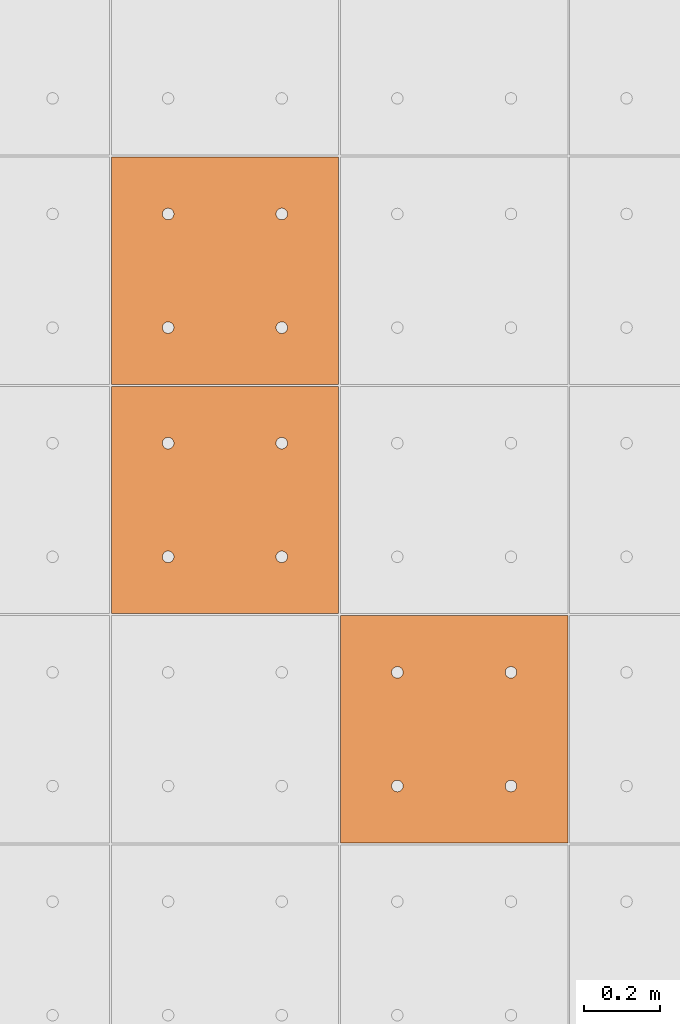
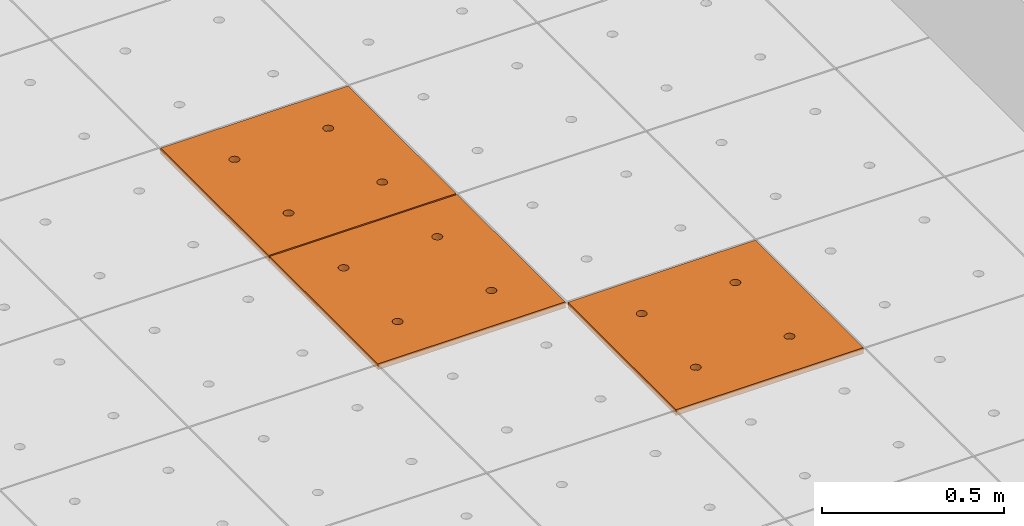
# One storey, part 274 of 338: 3 proxies, 1 element without a shape of its own.
"""IFC2X3 building model written with IfcOpenShell, lengths in millimetres."""

from ifc_helpers import new_model, entity, si_unit, converted_unit, derived_unit, money_unit, direction, frame, origin_with_axes, place, context, subcontext, project, spatial, faceted_brep, source, transform, mapped, material, type_object, type_shapes, element, aggregate, save


model = new_model("IFC2X3")

# Units and contexts
model_context = context("Model", 3, precision=0.01, world=origin_with_axes(), true_north=direction((0.0, 1.0)))
plan_context = context("Plan", 3, precision=0.01, world=origin_with_axes(), true_north=direction((0.0, 1.0)))
body_context = subcontext(model_context, "Body", "Model", "MODEL_VIEW")
ifc_project = project(units=[si_unit("LENGTHUNIT", "METRE", prefix="MILLI"), si_unit("AREAUNIT", "SQUARE_METRE"), si_unit("VOLUMEUNIT", "CUBIC_METRE"), converted_unit("PLANEANGLEUNIT", "DEGREE", entity("IfcPlaneAngleMeasure", 0.0174532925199), si_unit("PLANEANGLEUNIT", "RADIAN"), dimensions=[0, 0, 0, 0, 0, 0, 0]), money_unit("EUR"), converted_unit("TIMEUNIT", "Year", entity("IfcTimeMeasure", 31556926.0), si_unit("TIMEUNIT", "SECOND"), dimensions=[0, 0, 1, 0, 0, 0, 0]), si_unit("MASSUNIT", "GRAM", prefix="KILO"), si_unit("THERMODYNAMICTEMPERATUREUNIT", "DEGREE_CELSIUS"), si_unit("LUMINOUSINTENSITYUNIT", "LUMEN"), si_unit("ENERGYUNIT", "JOULE", prefix="MEGA"), derived_unit("THERMALCONDUCTANCEUNIT", [(si_unit("POWERUNIT", "WATT"), 1), (si_unit("LENGTHUNIT", "METRE"), -1), (si_unit("THERMODYNAMICTEMPERATUREUNIT", "KELVIN"), -1)]), derived_unit("SPECIFICHEATCAPACITYUNIT", [(si_unit("ENERGYUNIT", "JOULE"), 1), (si_unit("MASSUNIT", "GRAM", prefix="KILO"), -1), (si_unit("THERMODYNAMICTEMPERATUREUNIT", "KELVIN"), -1)]), derived_unit("MASSDENSITYUNIT", [(si_unit("MASSUNIT", "GRAM", prefix="KILO"), 1), (si_unit("VOLUMEUNIT", "CUBIC_METRE"), -1)])], contexts=[model_context, plan_context])

# Site, building, storey
site_placement = place(None, origin_with_axes())
site = spatial("IfcSite", under=ifc_project, at=site_placement, Name="Fortuinstraat Woensdrecht", CompositionType="ELEMENT")
building_placement = place(site_placement, origin_with_axes())
building = spatial("IfcBuilding", under=site, at=building_placement, Name="IKC Fortuna", CompositionType="ELEMENT")
storey_placement = place(building_placement, origin_with_axes())
storey = spatial("IfcBuildingStorey", under=building, at=storey_placement, Name="00 begane grond", CompositionType="ELEMENT", Elevation=0.0)

# Covering, proxies
covering_type = type_object("IfcCoveringType", Name="Curtain Wall Type", PredefinedType="CEILING")
covering_placement = place(storey_placement, frame((17451.9845996, 24118.5314449, 3210.0), z_axis=(0.0, 0.0, 1.0), x_axis=(1.0, 0.0, 0.0)))
covering = element("IfcCovering", 1, at=covering_placement, inside=storey, type_object=covering_type, Name="45_Plafondafwerking_P01", PredefinedType="CEILING")
ifc_material = material(Name="Gipsplaat")
building_element_proxy_type = type_object("IfcBuildingElementProxyType", Name="Main Panel 600 x 600 x 20", PredefinedType="NOTDEFINED")
shared_shape = source(origin_with_axes(), body_context, "Body", "Brep", [
    faceted_brep([(2.49999999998, 2.49999999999, -10.0), (300.0, 2.49999999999, -10.0), (300.0, 2.49999999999, 10.0), (2.49999999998, 2.49999999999, 10.0), (2.49999999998, 300.0, -10.0), (2.49999999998, 597.5, -10.0), (300.0, 597.5, -10.0), (597.5, 597.5, -10.0), (597.5, 300.0, -10.0), (597.5, 2.49999999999, -10.0), (166.25, 450.06232995, -10.0), (165.79423259, 452.64711538, -10.0), (164.896546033, 455.11348892, -10.0), (163.58421608, 457.38651108, -10.0), (161.897117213, 459.39711721, -10.0), (159.886511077, 461.08421608, -10.0), (157.613488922, 462.39654603, -10.0), (155.147115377, 463.29423259, -10.0), (152.562329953, 463.75, -10.0), (149.937670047, 463.75, -10.0), (147.352884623, 463.29423259, -10.0), (144.886511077, 462.39654603, -10.0), (142.613488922, 461.08421608, -10.0), (140.602882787, 459.39711721, -10.0), (138.91578392, 457.38651108, -10.0), (137.603453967, 455.11348892, -10.0), (136.705767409, 452.64711538, -10.0), (136.25, 450.06232995, -10.0), (136.25, 448.75, -10.0), (136.25, 447.43767005, -10.0), (136.705767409, 444.85288462, -10.0), (137.603453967, 442.38651108, -10.0), (138.91578392, 440.11348892, -10.0), (140.602882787, 438.10288279, -10.0), (142.613488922, 436.41578392, -10.0), (144.886511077, 435.10345397, -10.0), (147.352884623, 434.20576741, -10.0), (149.937670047, 433.75, -10.0), (152.562329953, 433.75, -10.0), (155.147115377, 434.20576741, -10.0), (157.613488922, 435.10345397, -10.0), (159.886511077, 436.41578392, -10.0), (161.897117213, 438.10288279, -10.0), (163.58421608, 440.11348892, -10.0), (164.896546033, 442.38651108, -10.0), (165.79423259, 444.85288462, -10.0), (166.25, 447.43767005, -10.0), (463.75, 450.06232995, -10.0), (463.29423259, 452.64711538, -10.0), (462.396546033, 455.11348892, -10.0), (461.08421608, 457.38651108, -10.0), (459.397117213, 459.39711721, -10.0), (457.386511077, 461.08421608, -10.0), (455.113488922, 462.39654603, -10.0), (452.647115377, 463.29423259, -10.0), (450.062329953, 463.75, -10.0), (447.437670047, 463.75, -10.0), (444.852884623, 463.29423259, -10.0), (442.386511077, 462.39654603, -10.0), (440.113488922, 461.08421608, -10.0), (438.102882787, 459.39711721, -10.0), (436.41578392, 457.38651108, -10.0), (435.103453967, 455.11348892, -10.0), (434.205767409, 452.64711538, -10.0), (433.75, 450.06232995, -10.0), (433.75, 448.75, -10.0), (433.75, 447.43767005, -10.0), (434.205767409, 444.85288462, -10.0), (435.103453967, 442.38651108, -10.0), (436.41578392, 440.11348892, -10.0), (438.102882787, 438.10288279, -10.0), (440.113488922, 436.41578392, -10.0), (442.386511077, 435.10345397, -10.0), (444.852884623, 434.20576741, -10.0), (447.437670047, 433.75, -10.0), (450.062329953, 433.75, -10.0), (452.647115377, 434.20576741, -10.0), (455.113488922, 435.10345397, -10.0), (457.386511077, 436.41578392, -10.0), (459.397117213, 438.10288279, -10.0), (461.08421608, 440.11348892, -10.0), (462.396546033, 442.38651108, -10.0), (463.29423259, 444.85288462, -10.0), (463.75, 447.43767005, -10.0), (463.75, 152.56232995, -10.0), (463.29423259, 155.14711538, -10.0), (462.396546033, 157.61348892, -10.0), (461.08421608, 159.88651108, -10.0), (459.397117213, 161.89711721, -10.0), (457.386511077, 163.58421608, -10.0), (455.113488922, 164.89654603, -10.0), (452.647115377, 165.79423259, -10.0), (450.062329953, 166.25, -10.0), (447.437670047, 166.25, -10.0), (444.852884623, 165.79423259, -10.0), (442.386511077, 164.89654603, -10.0), (440.113488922, 163.58421608, -10.0), (438.102882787, 161.89711721, -10.0), (436.41578392, 159.88651108, -10.0), (435.103453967, 157.61348892, -10.0), (434.205767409, 155.14711538, -10.0), (433.75, 152.56232995, -10.0), (433.75, 151.25, -10.0), (433.75, 149.93767005, -10.0), (434.205767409, 147.35288462, -10.0), (435.103453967, 144.88651108, -10.0), (436.41578392, 142.61348892, -10.0), (438.102882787, 140.60288279, -10.0), (440.113488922, 138.91578392, -10.0), (442.386511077, 137.60345397, -10.0), (444.852884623, 136.70576741, -10.0), (447.437670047, 136.25, -10.0), (450.062329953, 136.25, -10.0), (452.647115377, 136.70576741, -10.0), (455.113488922, 137.60345397, -10.0), (457.386511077, 138.91578392, -10.0), (459.397117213, 140.60288279, -10.0), (461.08421608, 142.61348892, -10.0), (462.396546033, 144.88651108, -10.0), (463.29423259, 147.35288462, -10.0), (463.75, 149.93767005, -10.0), (166.25, 152.56232995, -10.0), (165.79423259, 155.14711538, -10.0), (164.896546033, 157.61348892, -10.0), (163.58421608, 159.88651108, -10.0), (161.897117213, 161.89711721, -10.0), (159.886511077, 163.58421608, -10.0), (157.613488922, 164.89654603, -10.0), (155.147115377, 165.79423259, -10.0), (152.562329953, 166.25, -10.0), (149.937670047, 166.25, -10.0), (147.352884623, 165.79423259, -10.0), (144.886511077, 164.89654603, -10.0), (142.613488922, 163.58421608, -10.0), (140.602882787, 161.89711721, -10.0), (138.91578392, 159.88651108, -10.0), (137.603453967, 157.61348892, -10.0), (136.705767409, 155.14711538, -10.0), (136.25, 152.56232995, -10.0), (136.25, 151.25, -10.0), (136.25, 149.93767005, -10.0), (136.705767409, 147.35288462, -10.0), (137.603453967, 144.88651108, -10.0), (138.91578392, 142.61348892, -10.0), (140.602882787, 140.60288279, -10.0), (142.613488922, 138.91578392, -10.0), (144.886511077, 137.60345397, -10.0), (147.352884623, 136.70576741, -10.0), (149.937670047, 136.25, -10.0), (152.562329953, 136.25, -10.0), (155.147115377, 136.70576741, -10.0), (157.613488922, 137.60345397, -10.0), (159.886511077, 138.91578392, -10.0), (161.897117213, 140.60288279, -10.0), (163.58421608, 142.61348892, -10.0), (164.896546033, 144.88651108, -10.0), (165.79423259, 147.35288462, -10.0), (166.25, 149.93767005, -10.0), (597.5, 2.49999999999, 10.0), (597.5, 300.0, 10.0), (597.5, 597.5, 10.0), (300.0, 597.5, 10.0), (2.49999999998, 597.5, 10.0), (2.49999999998, 300.0, 10.0), (166.25, 450.06232995, 10.0), (166.25, 447.43767005, 10.0), (165.79423259, 444.85288462, 10.0), (164.896546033, 442.38651108, 10.0), (163.58421608, 440.11348892, 10.0), (161.897117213, 438.10288279, 10.0), (159.886511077, 436.41578392, 10.0), (157.613488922, 435.10345397, 10.0), (155.147115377, 434.20576741, 10.0), (152.562329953, 433.75, 10.0), (149.937670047, 433.75, 10.0), (147.352884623, 434.20576741, 10.0), (144.886511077, 435.10345397, 10.0), (142.613488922, 436.41578392, 10.0), (140.602882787, 438.10288279, 10.0), (138.91578392, 440.11348892, 10.0), (137.603453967, 442.38651108, 10.0), (136.705767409, 444.85288462, 10.0), (136.25, 447.43767005, 10.0), (136.25, 448.75, 10.0), (136.25, 450.06232995, 10.0), (136.705767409, 452.64711538, 10.0), (137.603453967, 455.11348892, 10.0), (138.91578392, 457.38651108, 10.0), (140.602882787, 459.39711721, 10.0), (142.613488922, 461.08421608, 10.0), (144.886511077, 462.39654603, 10.0), (147.352884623, 463.29423259, 10.0), (149.937670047, 463.75, 10.0), (152.562329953, 463.75, 10.0), (155.147115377, 463.29423259, 10.0), (157.613488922, 462.39654603, 10.0), (159.886511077, 461.08421608, 10.0), (161.897117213, 459.39711721, 10.0), (163.58421608, 457.38651108, 10.0), (164.896546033, 455.11348892, 10.0), (165.79423259, 452.64711538, 10.0), (463.75, 450.06232995, 10.0), (463.75, 447.43767005, 10.0), (463.29423259, 444.85288462, 10.0), (462.396546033, 442.38651108, 10.0), (461.08421608, 440.11348892, 10.0), (459.397117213, 438.10288279, 10.0), (457.386511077, 436.41578392, 10.0), (455.113488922, 435.10345397, 10.0), (452.647115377, 434.20576741, 10.0), (450.062329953, 433.75, 10.0), (447.437670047, 433.75, 10.0), (444.852884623, 434.20576741, 10.0), (442.386511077, 435.10345397, 10.0), (440.113488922, 436.41578392, 10.0), (438.102882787, 438.10288279, 10.0), (436.41578392, 440.11348892, 10.0), (435.103453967, 442.38651108, 10.0), (434.205767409, 444.85288462, 10.0), (433.75, 447.43767005, 10.0), (433.75, 448.75, 10.0), (433.75, 450.06232995, 10.0), (434.205767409, 452.64711538, 10.0), (435.103453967, 455.11348892, 10.0), (436.41578392, 457.38651108, 10.0), (438.102882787, 459.39711721, 10.0), (440.113488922, 461.08421608, 10.0), (442.386511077, 462.39654603, 10.0), (444.852884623, 463.29423259, 10.0), (447.437670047, 463.75, 10.0), (450.062329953, 463.75, 10.0), (452.647115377, 463.29423259, 10.0), (455.113488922, 462.39654603, 10.0), (457.386511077, 461.08421608, 10.0), (459.397117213, 459.39711721, 10.0), (461.08421608, 457.38651108, 10.0), (462.396546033, 455.11348892, 10.0), (463.29423259, 452.64711538, 10.0), (463.75, 152.56232995, 10.0), (463.75, 149.93767005, 10.0), (463.29423259, 147.35288462, 10.0), (462.396546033, 144.88651108, 10.0), (461.08421608, 142.61348892, 10.0), (459.397117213, 140.60288279, 10.0), (457.386511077, 138.91578392, 10.0), (455.113488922, 137.60345397, 10.0), (452.647115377, 136.70576741, 10.0), (450.062329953, 136.25, 10.0), (447.437670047, 136.25, 10.0), (444.852884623, 136.70576741, 10.0), (442.386511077, 137.60345397, 10.0), (440.113488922, 138.91578392, 10.0), (438.102882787, 140.60288279, 10.0), (436.41578392, 142.61348892, 10.0), (435.103453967, 144.88651108, 10.0), (434.205767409, 147.35288462, 10.0), (433.75, 149.93767005, 10.0), (433.75, 151.25, 10.0), (433.75, 152.56232995, 10.0), (434.205767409, 155.14711538, 10.0), (435.103453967, 157.61348892, 10.0), (436.41578392, 159.88651108, 10.0), (438.102882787, 161.89711721, 10.0), (440.113488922, 163.58421608, 10.0), (442.386511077, 164.89654603, 10.0), (444.852884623, 165.79423259, 10.0), (447.437670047, 166.25, 10.0), (450.062329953, 166.25, 10.0), (452.647115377, 165.79423259, 10.0), (455.113488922, 164.89654603, 10.0), (457.386511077, 163.58421608, 10.0), (459.397117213, 161.89711721, 10.0), (461.08421608, 159.88651108, 10.0), (462.396546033, 157.61348892, 10.0), (463.29423259, 155.14711538, 10.0), (166.25, 152.56232995, 10.0), (166.25, 149.93767005, 10.0), (165.79423259, 147.35288462, 10.0), (164.896546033, 144.88651108, 10.0), (163.58421608, 142.61348892, 10.0), (161.897117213, 140.60288279, 10.0), (159.886511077, 138.91578392, 10.0), (157.613488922, 137.60345397, 10.0), (155.147115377, 136.70576741, 10.0), (152.562329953, 136.25, 10.0), (149.937670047, 136.25, 10.0), (147.352884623, 136.70576741, 10.0), (144.886511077, 137.60345397, 10.0), (142.613488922, 138.91578392, 10.0), (140.602882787, 140.60288279, 10.0), (138.91578392, 142.61348892, 10.0), (137.603453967, 144.88651108, 10.0), (136.705767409, 147.35288462, 10.0), (136.25, 149.93767005, 10.0), (136.25, 151.25, 10.0), (136.25, 152.56232995, 10.0), (136.705767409, 155.14711538, 10.0), (137.603453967, 157.61348892, 10.0), (138.91578392, 159.88651108, 10.0), (140.602882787, 161.89711721, 10.0), (142.613488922, 163.58421608, 10.0), (144.886511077, 164.89654603, 10.0), (147.352884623, 165.79423259, 10.0), (149.937670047, 166.25, 10.0), (152.562329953, 166.25, 10.0), (155.147115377, 165.79423259, 10.0), (157.613488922, 164.89654603, 10.0), (159.886511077, 163.58421608, 10.0), (161.897117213, 161.89711721, 10.0), (163.58421608, 159.88651108, 10.0), (164.896546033, 157.61348892, 10.0), (165.79423259, 155.14711538, 10.0)], [[[0, 1, 2, 3]], [[0, 4, 5, 6, 7, 8, 9, 1], [10, 11, 12, 13, 14, 15, 16, 17, 18, 19, 20, 21, 22, 23, 24, 25, 26, 27, 28, 29, 30, 31, 32, 33, 34, 35, 36, 37, 38, 39, 40, 41, 42, 43, 44, 45, 46], [47, 48, 49, 50, 51, 52, 53, 54, 55, 56, 57, 58, 59, 60, 61, 62, 63, 64, 65, 66, 67, 68, 69, 70, 71, 72, 73, 74, 75, 76, 77, 78, 79, 80, 81, 82, 83], [84, 85, 86, 87, 88, 89, 90, 91, 92, 93, 94, 95, 96, 97, 98, 99, 100, 101, 102, 103, 104, 105, 106, 107, 108, 109, 110, 111, 112, 113, 114, 115, 116, 117, 118, 119, 120], [121, 122, 123, 124, 125, 126, 127, 128, 129, 130, 131, 132, 133, 134, 135, 136, 137, 138, 139, 140, 141, 142, 143, 144, 145, 146, 147, 148, 149, 150, 151, 152, 153, 154, 155, 156, 157]], [[1, 9, 158, 2]], [[3, 2, 158, 159, 160, 161, 162, 163], [164, 165, 166, 167, 168, 169, 170, 171, 172, 173, 174, 175, 176, 177, 178, 179, 180, 181, 182, 183, 184, 185, 186, 187, 188, 189, 190, 191, 192, 193, 194, 195, 196, 197, 198, 199, 200], [201, 202, 203, 204, 205, 206, 207, 208, 209, 210, 211, 212, 213, 214, 215, 216, 217, 218, 219, 220, 221, 222, 223, 224, 225, 226, 227, 228, 229, 230, 231, 232, 233, 234, 235, 236, 237], [238, 239, 240, 241, 242, 243, 244, 245, 246, 247, 248, 249, 250, 251, 252, 253, 254, 255, 256, 257, 258, 259, 260, 261, 262, 263, 264, 265, 266, 267, 268, 269, 270, 271, 272, 273, 274], [275, 276, 277, 278, 279, 280, 281, 282, 283, 284, 285, 286, 287, 288, 289, 290, 291, 292, 293, 294, 295, 296, 297, 298, 299, 300, 301, 302, 303, 304, 305, 306, 307, 308, 309, 310, 311]], [[4, 0, 3, 163]], [[5, 4, 163, 162]], [[6, 5, 162, 161]], [[7, 6, 161, 160]], [[8, 7, 160, 159]], [[9, 8, 159, 158]], [[11, 10, 164, 200]], [[12, 11, 200, 199]], [[13, 12, 199, 198]], [[14, 13, 198, 197]], [[15, 14, 197, 196]], [[16, 15, 196, 195]], [[17, 16, 195, 194]], [[18, 17, 194, 193]], [[19, 18, 193, 192]], [[20, 19, 192, 191]], [[21, 20, 191, 190]], [[22, 21, 190, 189]], [[23, 22, 189, 188]], [[24, 23, 188, 187]], [[25, 24, 187, 186]], [[26, 25, 186, 185]], [[27, 26, 185, 184]], [[28, 27, 184, 183]], [[29, 28, 183, 182]], [[30, 29, 182, 181]], [[31, 30, 181, 180]], [[32, 31, 180, 179]], [[33, 32, 179, 178]], [[34, 33, 178, 177]], [[35, 34, 177, 176]], [[36, 35, 176, 175]], [[37, 36, 175, 174]], [[38, 37, 174, 173]], [[39, 38, 173, 172]], [[40, 39, 172, 171]], [[41, 40, 171, 170]], [[42, 41, 170, 169]], [[43, 42, 169, 168]], [[44, 43, 168, 167]], [[45, 44, 167, 166]], [[46, 45, 166, 165]], [[10, 46, 165, 164]], [[48, 47, 201, 237]], [[49, 48, 237, 236]], [[50, 49, 236, 235]], [[51, 50, 235, 234]], [[52, 51, 234, 233]], [[53, 52, 233, 232]], [[54, 53, 232, 231]], [[55, 54, 231, 230]], [[56, 55, 230, 229]], [[57, 56, 229, 228]], [[58, 57, 228, 227]], [[59, 58, 227, 226]], [[60, 59, 226, 225]], [[61, 60, 225, 224]], [[62, 61, 224, 223]], [[63, 62, 223, 222]], [[64, 63, 222, 221]], [[65, 64, 221, 220]], [[66, 65, 220, 219]], [[67, 66, 219, 218]], [[68, 67, 218, 217]], [[69, 68, 217, 216]], [[70, 69, 216, 215]], [[71, 70, 215, 214]], [[72, 71, 214, 213]], [[73, 72, 213, 212]], [[74, 73, 212, 211]], [[75, 74, 211, 210]], [[76, 75, 210, 209]], [[77, 76, 209, 208]], [[78, 77, 208, 207]], [[79, 78, 207, 206]], [[80, 79, 206, 205]], [[81, 80, 205, 204]], [[82, 81, 204, 203]], [[83, 82, 203, 202]], [[47, 83, 202, 201]], [[85, 84, 238, 274]], [[86, 85, 274, 273]], [[87, 86, 273, 272]], [[88, 87, 272, 271]], [[89, 88, 271, 270]], [[90, 89, 270, 269]], [[91, 90, 269, 268]], [[92, 91, 268, 267]], [[93, 92, 267, 266]], [[94, 93, 266, 265]], [[95, 94, 265, 264]], [[96, 95, 264, 263]], [[97, 96, 263, 262]], [[98, 97, 262, 261]], [[99, 98, 261, 260]], [[100, 99, 260, 259]], [[101, 100, 259, 258]], [[102, 101, 258, 257]], [[103, 102, 257, 256]], [[104, 103, 256, 255]], [[105, 104, 255, 254]], [[106, 105, 254, 253]], [[107, 106, 253, 252]], [[108, 107, 252, 251]], [[109, 108, 251, 250]], [[110, 109, 250, 249]], [[111, 110, 249, 248]], [[112, 111, 248, 247]], [[113, 112, 247, 246]], [[114, 113, 246, 245]], [[115, 114, 245, 244]], [[116, 115, 244, 243]], [[117, 116, 243, 242]], [[118, 117, 242, 241]], [[119, 118, 241, 240]], [[120, 119, 240, 239]], [[84, 120, 239, 238]], [[122, 121, 275, 311]], [[123, 122, 311, 310]], [[124, 123, 310, 309]], [[125, 124, 309, 308]], [[126, 125, 308, 307]], [[127, 126, 307, 306]], [[128, 127, 306, 305]], [[129, 128, 305, 304]], [[130, 129, 304, 303]], [[131, 130, 303, 302]], [[132, 131, 302, 301]], [[133, 132, 301, 300]], [[134, 133, 300, 299]], [[135, 134, 299, 298]], [[136, 135, 298, 297]], [[137, 136, 297, 296]], [[138, 137, 296, 295]], [[139, 138, 295, 294]], [[140, 139, 294, 293]], [[141, 140, 293, 292]], [[142, 141, 292, 291]], [[143, 142, 291, 290]], [[144, 143, 290, 289]], [[145, 144, 289, 288]], [[146, 145, 288, 287]], [[147, 146, 287, 286]], [[148, 147, 286, 285]], [[149, 148, 285, 284]], [[150, 149, 284, 283]], [[151, 150, 283, 282]], [[152, 151, 282, 281]], [[153, 152, 281, 280]], [[154, 153, 280, 279]], [[155, 154, 279, 278]], [[156, 155, 278, 277]], [[157, 156, 277, 276]], [[121, 157, 276, 275]]]),
])
type_shapes(building_element_proxy_type, [shared_shape])
proxy_1_placement = place(covering_placement, frame((1800.0, 0.0, 0.0), z_axis=(0.0, 0.0, 1.0), x_axis=(1.0, 0.0, 0.0)))
proxy_1 = element("IfcBuildingElementProxy", 2, at=proxy_1_placement, type_object=building_element_proxy_type, material=ifc_material, Name="__600x601 Rockfon Krios", context=body_context, shape_type="MappedRepresentation", body=[
    mapped(shared_shape, transform((300.0, 300.0, 0.0), x_axis=(-1.0, 0.0, 0.0), y_axis=(0.0, -1.0, 0.0), z_axis=(0.0, 0.0, 1.0))),
])
proxy_2_placement = place(covering_placement, frame((1200.0, 600.0, 0.0), z_axis=(0.0, 0.0, 1.0), x_axis=(1.0, 0.0, 0.0)))
proxy_2 = element("IfcBuildingElementProxy", 3, at=proxy_2_placement, type_object=building_element_proxy_type, material=ifc_material, Name="__600x616 Rockfon Krios", context=body_context, shape_type="MappedRepresentation", body=[
    mapped(shared_shape, transform((300.0, 300.0, 0.0), x_axis=(-1.0, 0.0, 0.0), y_axis=(0.0, -1.0, 0.0), z_axis=(0.0, 0.0, 1.0))),
])
proxy_3_placement = place(covering_placement, frame((1200.0, 1200.0, 0.0), z_axis=(0.0, 0.0, 1.0), x_axis=(1.0, 0.0, 0.0)))
proxy_3 = element("IfcBuildingElementProxy", 4, at=proxy_3_placement, type_object=building_element_proxy_type, material=ifc_material, Name="__600x619 Rockfon Krios", context=body_context, shape_type="MappedRepresentation", body=[
    mapped(shared_shape, transform((300.0, 300.0, 0.0), x_axis=(-1.0, 0.0, 0.0), y_axis=(0.0, -1.0, 0.0), z_axis=(0.0, 0.0, 1.0))),
])
aggregate(covering, [proxy_1, proxy_2, proxy_3])

save(model, "model.ifc")
